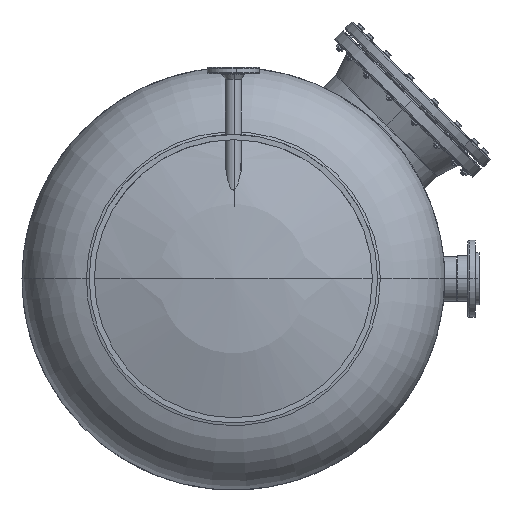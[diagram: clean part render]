
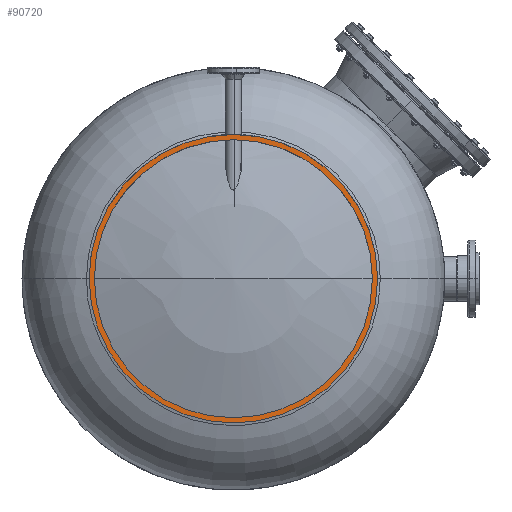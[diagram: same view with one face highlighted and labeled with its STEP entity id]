
A CAD part, front view. The second image highlights one B-rep face of the part: STEP entity #90720.
In plain terms, the highlighted planar face has unit normal (0, -1, 0).
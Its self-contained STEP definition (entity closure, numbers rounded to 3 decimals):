
#638 = AXIS2_PLACEMENT_3D ( 'NONE', #6802, #55754, #5769 ) ;
#1432 = VERTEX_POINT ( 'NONE', #7965 ) ;
#1834 = VERTEX_POINT ( 'NONE', #104996 ) ;
#2914 = FACE_OUTER_BOUND ( 'NONE', #64611, .T. ) ;
#5769 = DIRECTION ( 'NONE',  ( 1., 0., 0. ) ) ;
#6802 = CARTESIAN_POINT ( 'NONE',  ( 415., 0., -415.041 ) ) ;
#7965 = CARTESIAN_POINT ( 'NONE',  ( 15., 0., -415.041 ) ) ;
#18473 = PLANE ( 'NONE',  #58411 ) ;
#23744 = EDGE_CURVE ( 'NONE', #1834, #1432, #48308, .T. ) ;
#25920 = EDGE_CURVE ( 'NONE', #80025, #93431, #28350, .T. ) ;
#27446 = DIRECTION ( 'NONE',  ( 0., -1., 0. ) ) ;
#27770 = CARTESIAN_POINT ( 'NONE',  ( 415., 0., -415.041 ) ) ;
#28350 = CIRCLE ( 'NONE', #638, 415. ) ;
#29223 = DIRECTION ( 'NONE',  ( 0., 1., 0. ) ) ;
#30970 = DIRECTION ( 'NONE',  ( 0., 1., 0. ) ) ;
#32010 = DIRECTION ( 'NONE',  ( 0., 1., 0. ) ) ;
#32077 = CIRCLE ( 'NONE', #85234, 415. ) ;
#33466 = AXIS2_PLACEMENT_3D ( 'NONE', #27770, #32010, #56225 ) ;
#35536 = ORIENTED_EDGE ( 'NONE', *, *, #86944, .T. ) ;
#39845 = AXIS2_PLACEMENT_3D ( 'NONE', #60806, #27446, #42506 ) ;
#40403 = CIRCLE ( 'NONE', #33466, 400. ) ;
#42186 = FACE_BOUND ( 'NONE', #95608, .T. ) ;
#42506 = DIRECTION ( 'NONE',  ( 1., 0., 0. ) ) ;
#43969 = ORIENTED_EDGE ( 'NONE', *, *, #25920, .T. ) ;
#45000 = CARTESIAN_POINT ( 'NONE',  ( 0., 0., -415.041 ) ) ;
#48308 = CIRCLE ( 'NONE', #39845, 400. ) ;
#53463 = CARTESIAN_POINT ( 'NONE',  ( 415., 0., -415.041 ) ) ;
#55754 = DIRECTION ( 'NONE',  ( 0., -1., 0. ) ) ;
#56225 = DIRECTION ( 'NONE',  ( 1., 0., 0. ) ) ;
#58411 = AXIS2_PLACEMENT_3D ( 'NONE', #53463, #29223, #87239 ) ;
#60806 = CARTESIAN_POINT ( 'NONE',  ( 415., 0., -415.041 ) ) ;
#64611 = EDGE_LOOP ( 'NONE', ( #73822, #43969 ) ) ;
#69246 = DIRECTION ( 'NONE',  ( 1., 0., 0. ) ) ;
#73822 = ORIENTED_EDGE ( 'NONE', *, *, #88662, .F. ) ;
#80025 = VERTEX_POINT ( 'NONE', #92772 ) ;
#85234 = AXIS2_PLACEMENT_3D ( 'NONE', #102055, #30970, #69246 ) ;
#86944 = EDGE_CURVE ( 'NONE', #1834, #1432, #40403, .T. ) ;
#87239 = DIRECTION ( 'NONE',  ( 1., 0., 0. ) ) ;
#88662 = EDGE_CURVE ( 'NONE', #80025, #93431, #32077, .T. ) ;
#89623 = ORIENTED_EDGE ( 'NONE', *, *, #23744, .F. ) ;
#90720 = ADVANCED_FACE ( 'NONE', ( #2914, #42186 ), #18473, .F. ) ;
#92772 = CARTESIAN_POINT ( 'NONE',  ( 830., 0., -415.041 ) ) ;
#93431 = VERTEX_POINT ( 'NONE', #45000 ) ;
#95608 = EDGE_LOOP ( 'NONE', ( #89623, #35536 ) ) ;
#102055 = CARTESIAN_POINT ( 'NONE',  ( 415., 0., -415.041 ) ) ;
#104996 = CARTESIAN_POINT ( 'NONE',  ( 815., 0., -415.041 ) ) ;
